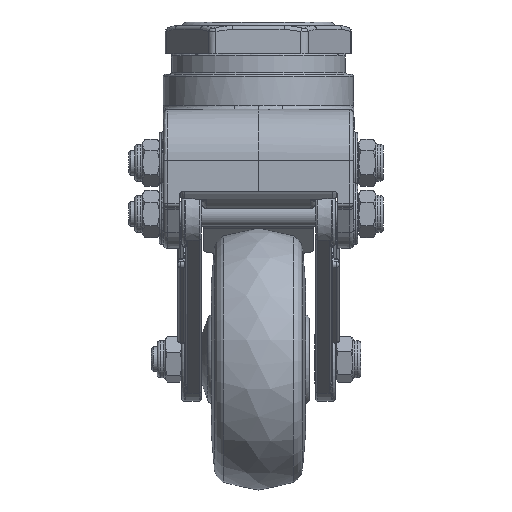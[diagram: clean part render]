
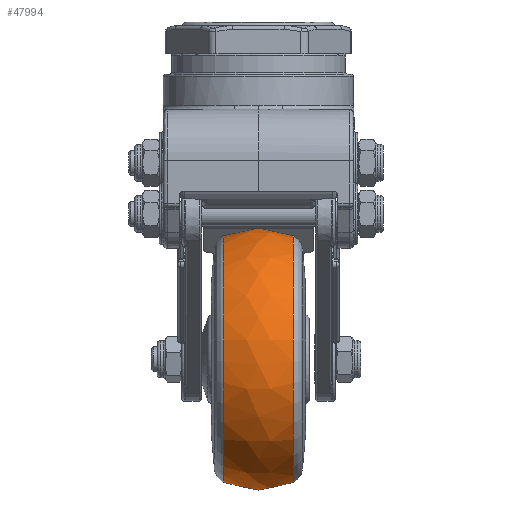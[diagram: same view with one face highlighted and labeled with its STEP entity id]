
A CAD part, left-side view. The second image highlights one B-rep face of the part: STEP entity #47994.
In plain terms, the highlighted free-form (B-spline) face has degree [2, 2] with [3, 9] control points.
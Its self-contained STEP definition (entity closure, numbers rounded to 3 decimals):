
#18=(
BOUNDED_SURFACE()
B_SPLINE_SURFACE(2,2,((#83547,#83548,#83549,#83550,#83551,#83552,#83553,
#83554,#83555),(#83556,#83557,#83558,#83559,#83560,#83561,#83562,#83563,
#83564),(#83565,#83566,#83567,#83568,#83569,#83570,#83571,#83572,#83573)),
 .UNSPECIFIED.,.F.,.T.,.F.)
B_SPLINE_SURFACE_WITH_KNOTS((3,3),(3,2,2,2,3),(-0.438,0.438),
(-3.142,-1.571,0.,1.571,3.142),
 .UNSPECIFIED.)
GEOMETRIC_REPRESENTATION_ITEM()
RATIONAL_B_SPLINE_SURFACE(((1.,0.707,1.,0.707,1.,
0.707,1.,0.707,1.),(0.906,0.64,
0.906,0.64,0.906,0.64,
0.906,0.64,0.906),(1.,0.707,
1.,0.707,1.,0.707,1.,0.707,1.)))
REPRESENTATION_ITEM('')
SURFACE()
);
#5235=CIRCLE('',#51798,30.112);
#5236=CIRCLE('',#51799,30.112);
#5247=CIRCLE('',#51816,30.112);
#5248=CIRCLE('',#51817,30.112);
#5250=CIRCLE('',#51819,20.);
#7298=FACE_OUTER_BOUND('',#10083,.T.);
#10083=EDGE_LOOP('',(#37319,#37320,#37321,#37322,#37323,#37324));
#20241=VERTEX_POINT('',#83508);
#20242=VERTEX_POINT('',#83510);
#20253=VERTEX_POINT('',#83542);
#20254=VERTEX_POINT('',#83543);
#26195=EDGE_CURVE('',#20241,#20242,#5235,.T.);
#26196=EDGE_CURVE('',#20242,#20241,#5236,.T.);
#26210=EDGE_CURVE('',#20253,#20254,#5247,.T.);
#26211=EDGE_CURVE('',#20254,#20253,#5248,.T.);
#26213=EDGE_CURVE('',#20241,#20254,#5250,.T.);
#37319=ORIENTED_EDGE('',*,*,#26196,.F.);
#37320=ORIENTED_EDGE('',*,*,#26195,.F.);
#37321=ORIENTED_EDGE('',*,*,#26213,.T.);
#37322=ORIENTED_EDGE('',*,*,#26211,.T.);
#37323=ORIENTED_EDGE('',*,*,#26210,.T.);
#37324=ORIENTED_EDGE('',*,*,#26213,.F.);
#47994=ADVANCED_FACE('',(#7298),#18,.F.);
#51798=AXIS2_PLACEMENT_3D('',#83511,#60229,#60230);
#51799=AXIS2_PLACEMENT_3D('',#83512,#60231,#60232);
#51816=AXIS2_PLACEMENT_3D('',#83544,#60268,#60269);
#51817=AXIS2_PLACEMENT_3D('',#83545,#60270,#60271);
#51819=AXIS2_PLACEMENT_3D('',#83574,#60274,#60275);
#60229=DIRECTION('center_axis',(0.,-1.,0.));
#60230=DIRECTION('ref_axis',(-0.325,0.,-0.946));
#60231=DIRECTION('center_axis',(0.,-1.,0.));
#60232=DIRECTION('ref_axis',(-0.325,0.,-0.946));
#60268=DIRECTION('center_axis',(0.,-1.,0.));
#60269=DIRECTION('ref_axis',(-0.325,0.,-0.946));
#60270=DIRECTION('center_axis',(0.,-1.,0.));
#60271=DIRECTION('ref_axis',(-0.325,0.,-0.946));
#60274=DIRECTION('center_axis',(-0.946,0.,
0.325));
#60275=DIRECTION('ref_axis',(0.325,0.,0.946));
#83508=CARTESIAN_POINT('',(15.987,-13.069,-35.163));
#83510=CARTESIAN_POINT('',(-3.577,-13.069,-92.121));
#83511=CARTESIAN_POINT('Origin',(6.205,-13.069,-63.642));
#83512=CARTESIAN_POINT('Origin',(6.205,-13.069,-63.642));
#83542=CARTESIAN_POINT('',(-3.577,3.895,-92.121));
#83543=CARTESIAN_POINT('',(15.987,3.895,-35.163));
#83544=CARTESIAN_POINT('Origin',(6.205,3.895,-63.642));
#83545=CARTESIAN_POINT('Origin',(6.205,3.895,-63.642));
#83547=CARTESIAN_POINT('Ctrl Pts',(15.987,3.895,-35.163));
#83548=CARTESIAN_POINT('Ctrl Pts',(-12.492,3.895,-25.38));
#83549=CARTESIAN_POINT('Ctrl Pts',(-22.274,3.895,-53.859));
#83550=CARTESIAN_POINT('Ctrl Pts',(-32.056,3.895,-82.338));
#83551=CARTESIAN_POINT('Ctrl Pts',(-3.577,3.895,-92.121));
#83552=CARTESIAN_POINT('Ctrl Pts',(24.902,3.895,-101.903));
#83553=CARTESIAN_POINT('Ctrl Pts',(34.684,3.895,-73.424));
#83554=CARTESIAN_POINT('Ctrl Pts',(44.466,3.895,-44.945));
#83555=CARTESIAN_POINT('Ctrl Pts',(15.987,3.895,-35.163));
#83556=CARTESIAN_POINT('Ctrl Pts',(17.278,-4.587,-31.406));
#83557=CARTESIAN_POINT('Ctrl Pts',(-14.958,-4.587,
-20.333));
#83558=CARTESIAN_POINT('Ctrl Pts',(-26.031,-4.587,-52.569));
#83559=CARTESIAN_POINT('Ctrl Pts',(-37.104,-4.587,
-84.805));
#83560=CARTESIAN_POINT('Ctrl Pts',(-4.868,-4.587,
-95.877));
#83561=CARTESIAN_POINT('Ctrl Pts',(27.368,-4.587,-106.95));
#83562=CARTESIAN_POINT('Ctrl Pts',(38.441,-4.587,-74.714));
#83563=CARTESIAN_POINT('Ctrl Pts',(49.513,-4.587,-42.478));
#83564=CARTESIAN_POINT('Ctrl Pts',(17.278,-4.587,-31.406));
#83565=CARTESIAN_POINT('Ctrl Pts',(15.987,-13.069,-35.163));
#83566=CARTESIAN_POINT('Ctrl Pts',(-12.492,-13.069,-25.38));
#83567=CARTESIAN_POINT('Ctrl Pts',(-22.274,-13.069,
-53.859));
#83568=CARTESIAN_POINT('Ctrl Pts',(-32.056,-13.069,-82.338));
#83569=CARTESIAN_POINT('Ctrl Pts',(-3.577,-13.069,
-92.121));
#83570=CARTESIAN_POINT('Ctrl Pts',(24.902,-13.069,-101.903));
#83571=CARTESIAN_POINT('Ctrl Pts',(34.684,-13.069,-73.424));
#83572=CARTESIAN_POINT('Ctrl Pts',(44.466,-13.069,-44.945));
#83573=CARTESIAN_POINT('Ctrl Pts',(15.987,-13.069,-35.163));
#83574=CARTESIAN_POINT('Origin',(10.103,-4.587,-52.293));
